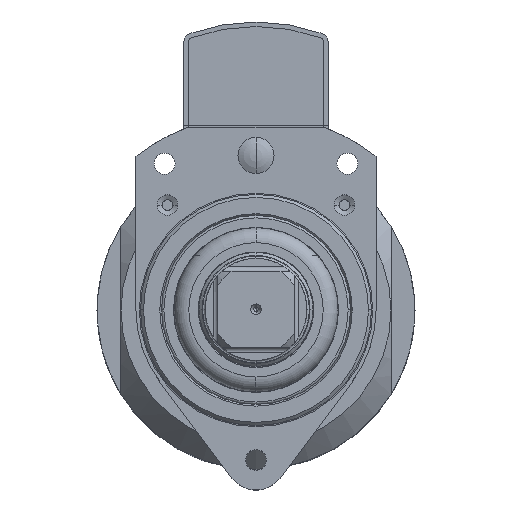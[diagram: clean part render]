
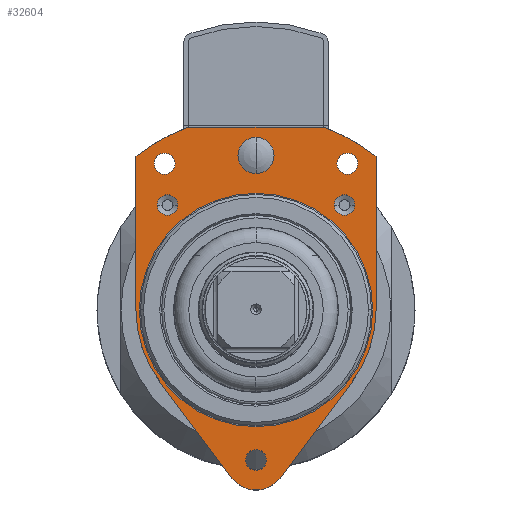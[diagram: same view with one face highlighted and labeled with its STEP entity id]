
A CAD part, top view. The second image highlights one B-rep face of the part: STEP entity #32604.
In plain terms, the highlighted planar face has unit normal (0, 0, 1).
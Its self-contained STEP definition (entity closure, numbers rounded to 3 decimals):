
#11429=DIRECTION('',(-1.,0.,0.));
#11430=VECTOR('',#11429,44.9);
#11431=CARTESIAN_POINT('',(22.45,61.,-13.));
#11432=LINE('',#11431,#11430);
#11433=CARTESIAN_POINT('',(0.,0.,-13.));
#11434=DIRECTION('',(0.,0.,1.));
#11435=DIRECTION('',(0.615,0.788,0.));
#11436=AXIS2_PLACEMENT_3D('',#11433,#11434,#11435);
#11438=DIRECTION('',(0.,1.,0.));
#11439=VECTOR('',#11438,51.235);
#11440=CARTESIAN_POINT('',(40.,0.,-13.));
#11441=LINE('',#11440,#11439);
#11442=CARTESIAN_POINT('',(0.,0.,-13.));
#11443=DIRECTION('',(0.,0.,1.));
#11444=DIRECTION('',(0.8,-0.6,0.));
#11445=AXIS2_PLACEMENT_3D('',#11442,#11443,#11444);
#11447=DIRECTION('',(0.6,0.8,0.));
#11448=VECTOR('',#11447,40.);
#11449=CARTESIAN_POINT('',(8.,-56.,-13.));
#11450=LINE('',#11449,#11448);
#11451=CARTESIAN_POINT('',(0.,-50.,-13.));
#11452=DIRECTION('',(0.,0.,1.));
#11453=DIRECTION('',(-0.8,-0.6,0.));
#11454=AXIS2_PLACEMENT_3D('',#11451,#11452,#11453);
#11456=DIRECTION('',(0.6,-0.8,0.));
#11457=VECTOR('',#11456,40.);
#11458=CARTESIAN_POINT('',(-32.,-24.,-13.));
#11459=LINE('',#11458,#11457);
#11460=CARTESIAN_POINT('',(0.,0.,-13.));
#11461=DIRECTION('',(0.,0.,1.));
#11462=DIRECTION('',(-1.,0.,0.));
#11463=AXIS2_PLACEMENT_3D('',#11460,#11461,#11462);
#11465=DIRECTION('',(0.,-1.,0.));
#11466=VECTOR('',#11465,51.235);
#11467=CARTESIAN_POINT('',(-40.,51.235,-13.));
#11468=LINE('',#11467,#11466);
#11469=CARTESIAN_POINT('',(0.,0.,-13.));
#11470=DIRECTION('',(0.,0.,1.));
#11471=DIRECTION('',(-0.345,0.938,0.));
#11472=AXIS2_PLACEMENT_3D('',#11469,#11470,#11471);
#11474=CARTESIAN_POINT('',(0.,-50.,-13.));
#11475=DIRECTION('',(0.,0.,1.));
#11476=DIRECTION('',(-1.,0.,0.));
#11477=AXIS2_PLACEMENT_3D('',#11474,#11475,#11476);
#11479=CARTESIAN_POINT('',(0.,-50.,-13.));
#11480=DIRECTION('',(0.,0.,1.));
#11481=DIRECTION('',(1.,0.,0.));
#11482=AXIS2_PLACEMENT_3D('',#11479,#11480,#11481);
#11484=CARTESIAN_POINT('',(30.47,48.763,-13.));
#11485=DIRECTION('',(0.,0.,1.));
#11486=DIRECTION('',(-1.,0.,0.));
#11487=AXIS2_PLACEMENT_3D('',#11484,#11485,#11486);
#11489=CARTESIAN_POINT('',(30.47,48.763,-13.));
#11490=DIRECTION('',(0.,0.,1.));
#11491=DIRECTION('',(1.,0.,0.));
#11492=AXIS2_PLACEMENT_3D('',#11489,#11490,#11491);
#11494=CARTESIAN_POINT('',(-30.47,48.763,-13.));
#11495=DIRECTION('',(0.,0.,1.));
#11496=DIRECTION('',(-1.,0.,0.));
#11497=AXIS2_PLACEMENT_3D('',#11494,#11495,#11496);
#11499=CARTESIAN_POINT('',(-30.47,48.763,-13.));
#11500=DIRECTION('',(0.,0.,1.));
#11501=DIRECTION('',(1.,0.,0.));
#11502=AXIS2_PLACEMENT_3D('',#11499,#11500,#11501);
#11504=CARTESIAN_POINT('',(-29.5,35.,-13.));
#11505=DIRECTION('',(0.,0.,1.));
#11506=DIRECTION('',(-1.,0.,0.));
#11507=AXIS2_PLACEMENT_3D('',#11504,#11505,#11506);
#11509=CARTESIAN_POINT('',(-29.5,35.,-13.));
#11510=DIRECTION('',(0.,0.,1.));
#11511=DIRECTION('',(1.,0.,0.));
#11512=AXIS2_PLACEMENT_3D('',#11509,#11510,#11511);
#11514=CARTESIAN_POINT('',(29.5,35.,-13.));
#11515=DIRECTION('',(0.,0.,1.));
#11516=DIRECTION('',(-1.,0.,0.));
#11517=AXIS2_PLACEMENT_3D('',#11514,#11515,#11516);
#11519=CARTESIAN_POINT('',(29.5,35.,-13.));
#11520=DIRECTION('',(0.,0.,1.));
#11521=DIRECTION('',(1.,0.,0.));
#11522=AXIS2_PLACEMENT_3D('',#11519,#11520,#11521);
#11524=CARTESIAN_POINT('',(0.,0.,-13.));
#11525=DIRECTION('',(0.,0.,1.));
#11526=DIRECTION('',(-1.,0.,0.));
#11527=AXIS2_PLACEMENT_3D('',#11524,#11525,#11526);
#11529=CARTESIAN_POINT('',(0.,0.,-13.));
#11530=DIRECTION('',(0.,0.,1.));
#11531=DIRECTION('',(1.,0.,0.));
#11532=AXIS2_PLACEMENT_3D('',#11529,#11530,#11531);
#11534=CARTESIAN_POINT('',(0.,51.5,-13.));
#11535=DIRECTION('',(0.,0.,1.));
#11536=DIRECTION('',(0.,1.,0.));
#11537=AXIS2_PLACEMENT_3D('',#11534,#11535,#11536);
#11539=CARTESIAN_POINT('',(0.,51.5,-13.));
#11540=DIRECTION('',(0.,0.,1.));
#11541=DIRECTION('',(0.,-1.,0.));
#11542=AXIS2_PLACEMENT_3D('',#11539,#11540,#11541);
#17489=CARTESIAN_POINT('',(22.45,61.,-13.));
#17490=CARTESIAN_POINT('',(-22.45,61.,-13.));
#17491=VERTEX_POINT('',#17489);
#17492=VERTEX_POINT('',#17490);
#17493=CARTESIAN_POINT('',(-40.,51.235,-13.));
#17494=VERTEX_POINT('',#17493);
#17495=CARTESIAN_POINT('',(-40.,0.,-13.));
#17496=VERTEX_POINT('',#17495);
#17497=CARTESIAN_POINT('',(-32.,-24.,-13.));
#17498=VERTEX_POINT('',#17497);
#17499=CARTESIAN_POINT('',(-8.,-56.,-13.));
#17500=VERTEX_POINT('',#17499);
#17501=CARTESIAN_POINT('',(8.,-56.,-13.));
#17502=VERTEX_POINT('',#17501);
#17503=CARTESIAN_POINT('',(32.,-24.,-13.));
#17504=VERTEX_POINT('',#17503);
#17505=CARTESIAN_POINT('',(40.,0.,-13.));
#17506=VERTEX_POINT('',#17505);
#17507=CARTESIAN_POINT('',(40.,51.235,-13.));
#17508=VERTEX_POINT('',#17507);
#17513=CARTESIAN_POINT('',(-3.5,-50.,-13.));
#17514=CARTESIAN_POINT('',(3.5,-50.,-13.));
#17515=VERTEX_POINT('',#17513);
#17516=VERTEX_POINT('',#17514);
#17521=CARTESIAN_POINT('',(26.97,48.763,-13.));
#17522=CARTESIAN_POINT('',(33.97,48.763,-13.));
#17523=VERTEX_POINT('',#17521);
#17524=VERTEX_POINT('',#17522);
#17529=CARTESIAN_POINT('',(-33.97,48.763,-13.));
#17530=CARTESIAN_POINT('',(-26.97,48.763,-13.));
#17531=VERTEX_POINT('',#17529);
#17532=VERTEX_POINT('',#17530);
#17533=CARTESIAN_POINT('',(-32.9,35.,-13.));
#17534=CARTESIAN_POINT('',(-26.1,35.,-13.));
#17535=VERTEX_POINT('',#17533);
#17536=VERTEX_POINT('',#17534);
#17537=CARTESIAN_POINT('',(26.1,35.,-13.));
#17538=CARTESIAN_POINT('',(32.9,35.,-13.));
#17539=VERTEX_POINT('',#17537);
#17540=VERTEX_POINT('',#17538);
#17601=CARTESIAN_POINT('',(-38.9,0.,-13.));
#17602=CARTESIAN_POINT('',(38.9,0.,-13.));
#17603=VERTEX_POINT('',#17601);
#17604=VERTEX_POINT('',#17602);
#17971=CARTESIAN_POINT('',(0.,57.5,-13.));
#17972=CARTESIAN_POINT('',(0.,45.5,-13.));
#17973=VERTEX_POINT('',#17971);
#17974=VERTEX_POINT('',#17972);
#32537=CARTESIAN_POINT('',(0.,0.,-13.));
#32538=DIRECTION('',(0.,0.,1.));
#32539=DIRECTION('',(-1.,0.,0.));
#32540=AXIS2_PLACEMENT_3D('',#32537,#32538,#32539);
#32541=PLANE('',#32540);
#32543=ORIENTED_EDGE('',*,*,#32542,.F.);
#32544=ORIENTED_EDGE('',*,*,#21360,.F.);
#32546=ORIENTED_EDGE('',*,*,#32545,.F.);
#32548=ORIENTED_EDGE('',*,*,#32547,.F.);
#32550=ORIENTED_EDGE('',*,*,#32549,.F.);
#32552=ORIENTED_EDGE('',*,*,#32551,.F.);
#32554=ORIENTED_EDGE('',*,*,#32553,.F.);
#32556=ORIENTED_EDGE('',*,*,#32555,.F.);
#32558=ORIENTED_EDGE('',*,*,#32557,.F.);
#32560=ORIENTED_EDGE('',*,*,#32559,.F.);
#32561=EDGE_LOOP('',(#32543,#32544,#32546,#32548,#32550,#32552,#32554,#32556,
#32558,#32560));
#32562=FACE_OUTER_BOUND('',#32561,.F.);
#32564=ORIENTED_EDGE('',*,*,#32563,.T.);
#32566=ORIENTED_EDGE('',*,*,#32565,.T.);
#32567=EDGE_LOOP('',(#32564,#32566));
#32568=FACE_BOUND('',#32567,.F.);
#32570=ORIENTED_EDGE('',*,*,#32569,.T.);
#32572=ORIENTED_EDGE('',*,*,#32571,.T.);
#32573=EDGE_LOOP('',(#32570,#32572));
#32574=FACE_BOUND('',#32573,.F.);
#32576=ORIENTED_EDGE('',*,*,#32575,.T.);
#32578=ORIENTED_EDGE('',*,*,#32577,.T.);
#32579=EDGE_LOOP('',(#32576,#32578));
#32580=FACE_BOUND('',#32579,.F.);
#32582=ORIENTED_EDGE('',*,*,#32581,.T.);
#32584=ORIENTED_EDGE('',*,*,#32583,.T.);
#32585=EDGE_LOOP('',(#32582,#32584));
#32586=FACE_BOUND('',#32585,.F.);
#32588=ORIENTED_EDGE('',*,*,#32587,.T.);
#32590=ORIENTED_EDGE('',*,*,#32589,.T.);
#32591=EDGE_LOOP('',(#32588,#32590));
#32592=FACE_BOUND('',#32591,.F.);
#32593=ORIENTED_EDGE('',*,*,#32520,.T.);
#32595=ORIENTED_EDGE('',*,*,#32594,.T.);
#32596=EDGE_LOOP('',(#32593,#32595));
#32597=FACE_BOUND('',#32596,.F.);
#32599=ORIENTED_EDGE('',*,*,#32598,.T.);
#32601=ORIENTED_EDGE('',*,*,#32600,.T.);
#32602=EDGE_LOOP('',(#32599,#32601));
#32603=FACE_BOUND('',#32602,.F.);
#11437=CIRCLE('',#11436,65.);
#11446=CIRCLE('',#11445,40.);
#11455=CIRCLE('',#11454,10.);
#11464=CIRCLE('',#11463,40.);
#11473=CIRCLE('',#11472,65.);
#11478=CIRCLE('',#11477,3.5);
#11483=CIRCLE('',#11482,3.5);
#11488=CIRCLE('',#11487,3.5);
#11493=CIRCLE('',#11492,3.5);
#11498=CIRCLE('',#11497,3.5);
#11503=CIRCLE('',#11502,3.5);
#11508=CIRCLE('',#11507,3.4);
#11513=CIRCLE('',#11512,3.4);
#11518=CIRCLE('',#11517,3.4);
#11523=CIRCLE('',#11522,3.4);
#11528=CIRCLE('',#11527,38.9);
#11533=CIRCLE('',#11532,38.9);
#11538=CIRCLE('',#11537,6.);
#11543=CIRCLE('',#11542,6.);
#21360=EDGE_CURVE('',#17508,#17491,#11437,.T.);
#32520=EDGE_CURVE('',#17603,#17604,#11528,.T.);
#32542=EDGE_CURVE('',#17491,#17492,#11432,.T.);
#32545=EDGE_CURVE('',#17506,#17508,#11441,.T.);
#32547=EDGE_CURVE('',#17504,#17506,#11446,.T.);
#32549=EDGE_CURVE('',#17502,#17504,#11450,.T.);
#32551=EDGE_CURVE('',#17500,#17502,#11455,.T.);
#32553=EDGE_CURVE('',#17498,#17500,#11459,.T.);
#32555=EDGE_CURVE('',#17496,#17498,#11464,.T.);
#32557=EDGE_CURVE('',#17494,#17496,#11468,.T.);
#32559=EDGE_CURVE('',#17492,#17494,#11473,.T.);
#32563=EDGE_CURVE('',#17515,#17516,#11478,.T.);
#32565=EDGE_CURVE('',#17516,#17515,#11483,.T.);
#32569=EDGE_CURVE('',#17523,#17524,#11488,.T.);
#32571=EDGE_CURVE('',#17524,#17523,#11493,.T.);
#32575=EDGE_CURVE('',#17531,#17532,#11498,.T.);
#32577=EDGE_CURVE('',#17532,#17531,#11503,.T.);
#32581=EDGE_CURVE('',#17535,#17536,#11508,.T.);
#32583=EDGE_CURVE('',#17536,#17535,#11513,.T.);
#32587=EDGE_CURVE('',#17539,#17540,#11518,.T.);
#32589=EDGE_CURVE('',#17540,#17539,#11523,.T.);
#32594=EDGE_CURVE('',#17604,#17603,#11533,.T.);
#32598=EDGE_CURVE('',#17973,#17974,#11538,.T.);
#32600=EDGE_CURVE('',#17974,#17973,#11543,.T.);
#32604=ADVANCED_FACE('',(#32562,#32568,#32574,#32580,#32586,#32592,#32597,
#32603),#32541,.T.);
